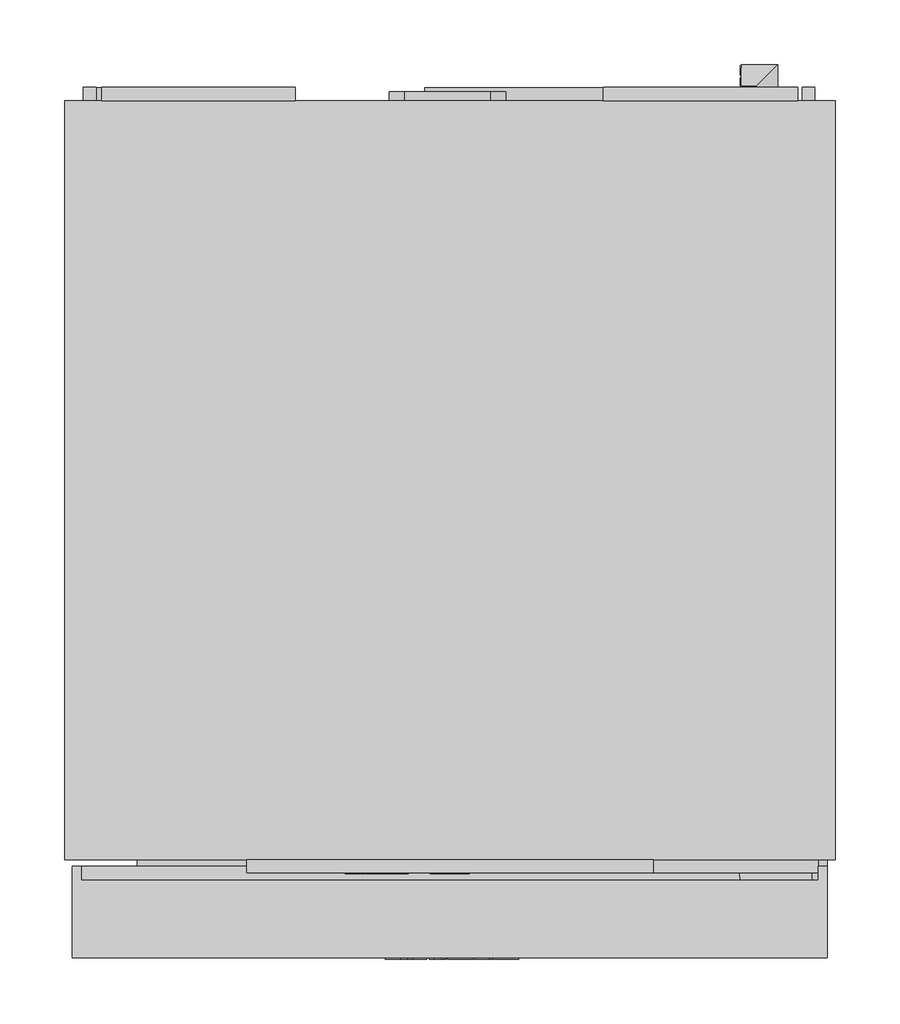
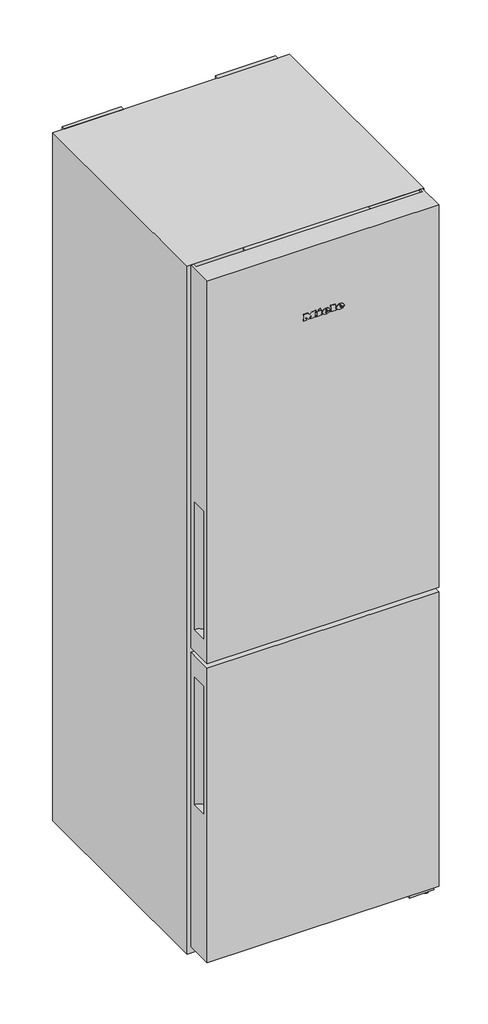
# Not in any storey: 1 proxy.
"""IFC4 building model written with IfcOpenShell, lengths in millimetres."""

from ifc_helpers import new_model, si_unit, origin, place, context, project, spatial, transform, mapped, element, save
from components import specialty_equipment_1cc31974

model = new_model("IFC4")

# Units and contexts
model_context = context("Model", 3, world=origin())
ifc_project = project(units=[si_unit("LENGTHUNIT", "METRE", prefix="MILLI")], contexts=[model_context])

# Site, building
site = spatial("IfcSite", under=ifc_project)
building = spatial("IfcBuilding", under=site)

# Proxy
placement = place(None, origin())
specialty_equipment_shape = specialty_equipment_1cc31974(model_context)
element("IfcBuildingElementProxy", 1, Name="12112970_ROK_KFN4375DD_EDTCS : 38437540_ROK_12112970_KFN4375DD_EDTCS", ObjectType="12112970_ROK_KFN4375DD_EDTCS : 38437540_ROK_12112970_KFN4375DD_EDTCS", at=placement, inside=building, context=model_context, shape_type="MappedRepresentation", body=[
    mapped(specialty_equipment_shape, transform((0.0, 0.0, 0.0), x_axis=(1.0, 0.0, 0.0), y_axis=(0.0, 1.0, 0.0), z_axis=(0.0, 0.0, 1.0))),
])

save(model, "model.ifc")
